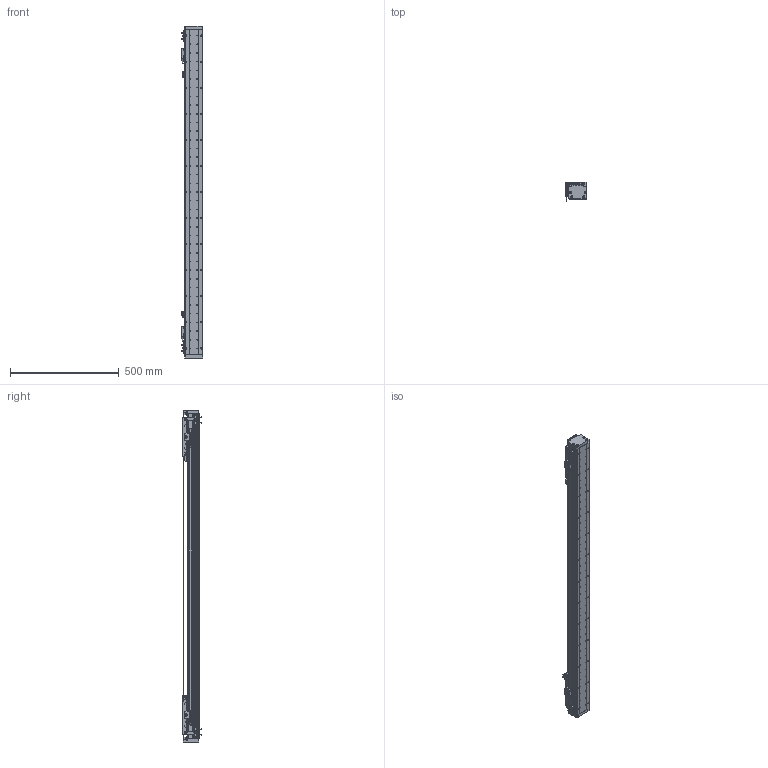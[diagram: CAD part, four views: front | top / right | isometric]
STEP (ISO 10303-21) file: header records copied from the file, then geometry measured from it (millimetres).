
FILE_DESCRIPTION (( 'STEP AP203' ), '1' );
FILE_NAME ('DA-A82-2-B2-T1080-C010-0.2 眻盄萇儂.STEP', '2025-08-13T02:33:11', ( '' ), ( '' ), 'SwSTEP 2.0', 'SolidWorks 2019', '' );
FILE_SCHEMA (( 'CONFIG_CONTROL_DESIGN' ));
Length unit declared in the file: millimetre
Products named in the file (29): 复件 复件 17517-0000-002-00 端板^DA-A82-B2-T-C010-0.2-N 直线电机; 复件 纯铜油杯 6x6mm^AU82-M 滚珠滑台; 复件 DA82-GYP-ZJ-00 中间光电感应片^DA-A82-B2-T-C010-0.2-N 直线电机; 复件 BKM02-W040-C1-TP-DA-3.0 直线电机动子^DA-A82-B2-T-C010-0.2-N 直线电机; 复件 XD-U-02  磁栅尺^DA-A82-B2-T-C010-0.2-N 直线电机; 葩璃 PM-L25^DA-A82-B2-T-C010-0.2-N 眻盄萇儂; AU82-M 幗紩賑怢; 复件 DA95-B2-GT-00 滑块钢轨^AU82-M-00 一体化滑动台板; 复件 六角薄螺母 M3^DA-A82-B2-T-C010-0.2-N 直线电机; DA-A82-2-B2-T1080-C010-0.2 眻盄萇儂; 葩璃 DMT-010 1米m 0.2M^DA-A82-B2-T-C010-0.2-N 眻盄萇儂; IU-AU82-L 菁釱絳寢; 复件 DKW-GJ-XJ-00 防撞橡胶^DA-A82-B2-T-C010-0.2-N 直线电机; 复件 复件 17517-0000-003-00 钢带拉块^DA-A82-B2-T-C010-0.2-N 直线电机; 葩璃 DA82-B2-DP-00 結え^AU82-M 幗紩賑怢; 复件 DA95-GT-T-00 底座钢轨^IU-AU82-L 底座导轨; DA-A60-GYP-DMT-00 光电感应片^DA-A82-B2-T-C010-0.2-N 直线电机(默认); 复件 DA82-GDZ-ZJ-00 中间光电固定座^DA-A82-B2-T-C010-0.2-N 直线电机; 复件 复件 DA82-XJ-00 缓冲橡胶^DA-A82-B2-T-C010-0.2-N 直线电机; AU82-HT-M-00 賑雄怢啣; 复件 DA60-DMT-DTJ-00 读数头支架^DA-A82-B2-T-C010-0.2-N 直线电机; 葩璃 PM-T45^DA-A82-B2-T-C010-0.2-N 眻盄萇儂; IU-AU82-L-00 菁釱(L1500); 复件 复件 17517-0000-004-00  钢带压块^DA-A82-B2-T-C010-0.2-N 直线电机(默认); 复件 复件 复件 DA82 钢带盖板^DA-A82-B2-T-C010-0.2-N 直线电机(默认); AU82-M 幗紩賑怢-1; 葩璃 BKM01-W040-TRL^DA-A82-B2-T-C010-0.2-N 眻盄萇儂; AU82-M-00 珨极趙賑雄怢啣-1; AU82-M-00 珨极趙賑雄怢啣
Assembly tree (61 placements, depth 4):
  DA-A82-2-B2-T1080-C010-0.2 眻盄萇儂
    IU-AU82-L 菁釱絳寢
      IU-AU82-L-00 菁釱(L1500)
      复件 DA95-GT-T-00 底座钢轨^IU-AU82-L 底座导轨  x2
    AU82-M 幗紩賑怢
      AU82-M-00 珨极趙賑雄怢啣
        AU82-HT-M-00 賑雄怢啣
        复件 DA95-B2-GT-00 滑块钢轨^AU82-M-00 一体化滑动台板  x4
      葩璃 DA82-B2-DP-00 結え^AU82-M 幗紩賑怢  x2
      复件 纯铜油杯 6x6mm^AU82-M 滚珠滑台  x2
    AU82-M 幗紩賑怢-1
      AU82-M-00 珨极趙賑雄怢啣-1
        AU82-HT-M-00 賑雄怢啣
        复件 DA95-B2-GT-00 滑块钢轨^AU82-M-00 一体化滑动台板  x4
      葩璃 DA82-B2-DP-00 結え^AU82-M 幗紩賑怢  x2
      复件 纯铜油杯 6x6mm^AU82-M 滚珠滑台  x2
    复件 BKM02-W040-C1-TP-DA-3.0 直线电机动子^DA-A82-B2-T-C010-0.2-N 直线电机  x2
    复件 DA60-DMT-DTJ-00 读数头支架^DA-A82-B2-T-C010-0.2-N 直线电机  x2
    葩璃 DMT-010 1米m 0.2M^DA-A82-B2-T-C010-0.2-N 眻盄萇儂  x2
    DA-A60-GYP-DMT-00 光电感应片^DA-A82-B2-T-C010-0.2-N 直线电机(默认)  x2
    复件 DA82-GDZ-ZJ-00 中间光电固定座^DA-A82-B2-T-C010-0.2-N 直线电机
    葩璃 PM-L25^DA-A82-B2-T-C010-0.2-N 眻盄萇儂
    复件 DA82-GYP-ZJ-00 中间光电感应片^DA-A82-B2-T-C010-0.2-N 直线电机
    复件 DKW-GJ-XJ-00 防撞橡胶^DA-A82-B2-T-C010-0.2-N 直线电机
    复件 复件 17517-0000-003-00 钢带拉块^DA-A82-B2-T-C010-0.2-N 直线电机  x2
    复件 复件 DA82-XJ-00 缓冲橡胶^DA-A82-B2-T-C010-0.2-N 直线电机  x2
    复件 复件 17517-0000-004-00  钢带压块^DA-A82-B2-T-C010-0.2-N 直线电机(默认)  x2
    复件 复件 17517-0000-002-00 端板^DA-A82-B2-T-C010-0.2-N 直线电机  x2
    复件 复件 复件 DA82 钢带盖板^DA-A82-B2-T-C010-0.2-N 直线电机(默认)
    葩璃 BKM01-W040-TRL^DA-A82-B2-T-C010-0.2-N 眻盄萇儂
    葩璃 PM-T45^DA-A82-B2-T-C010-0.2-N 眻盄萇儂  x4
    复件 XD-U-02  磁栅尺^DA-A82-B2-T-C010-0.2-N 直线电机
    复件 六角薄螺母 M3^DA-A82-B2-T-C010-0.2-N 直线电机  x8
Bounding box: 98.95 x 87.2 x 1528 mm (x, y, z)
Volume: 4886731.6 mm3; surface area: 1452120.1 mm2
Topology: 70 solids, 118 shells, 3359 faces, 8657 edges, 5374 vertices
Faces by surface type: cylinder 1523, plane 1344, cone 456, bspline 16, torus 16, sphere 4
Entity records: 69229 total; most frequent: CARTESIAN_POINT 15249, DIRECTION 10739, ORIENTED_EDGE 10096, EDGE_CURVE 5048, AXIS2_PLACEMENT_3D 4079, VERTEX_POINT 3278, VECTOR 2581, LINE 2581
